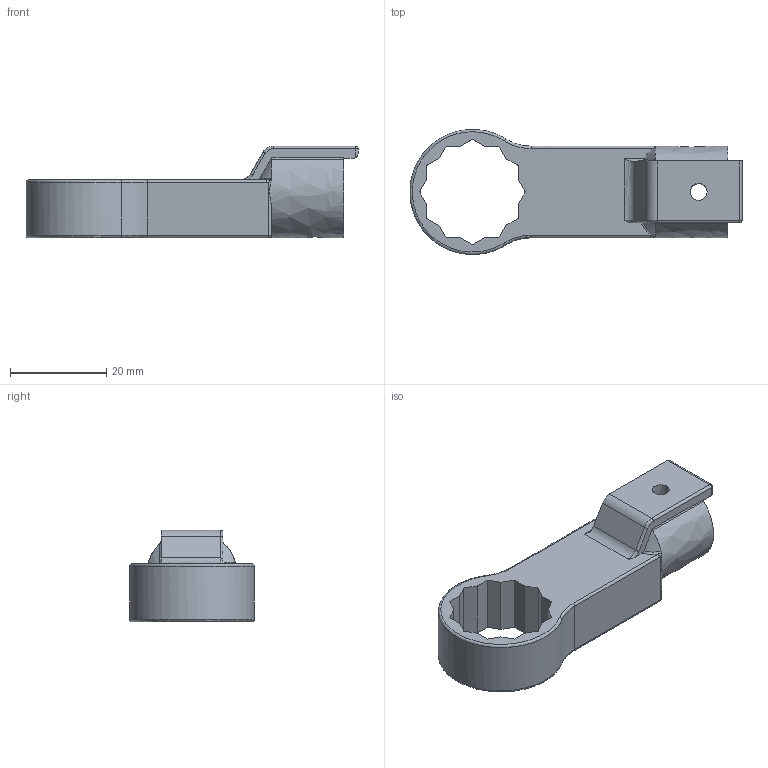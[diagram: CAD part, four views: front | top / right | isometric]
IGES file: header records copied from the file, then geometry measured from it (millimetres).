
Global section: file name: RH12DX19; native system: Autodesk Inventor 2016; preprocessor: unknown; author: Q532; date: 20151110.160812; units: millimetre
Bounding box: 68.97 x 25.97 x 19 mm (x, y, z)
Volume: 11345.2 mm3; surface area: 5615.2 mm2
Topology: 1 solids, 1 shells, 85 faces, 235 edges, 148 vertices
Faces by surface type: bspline 85
